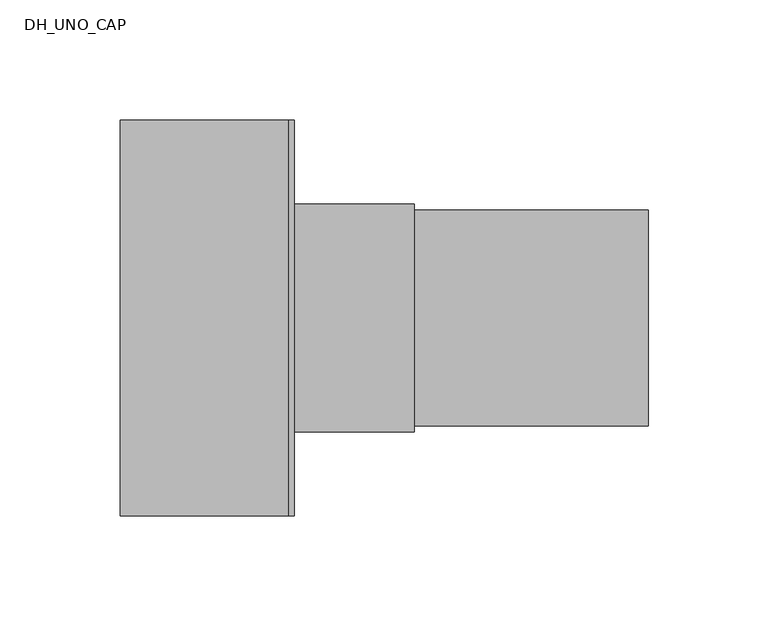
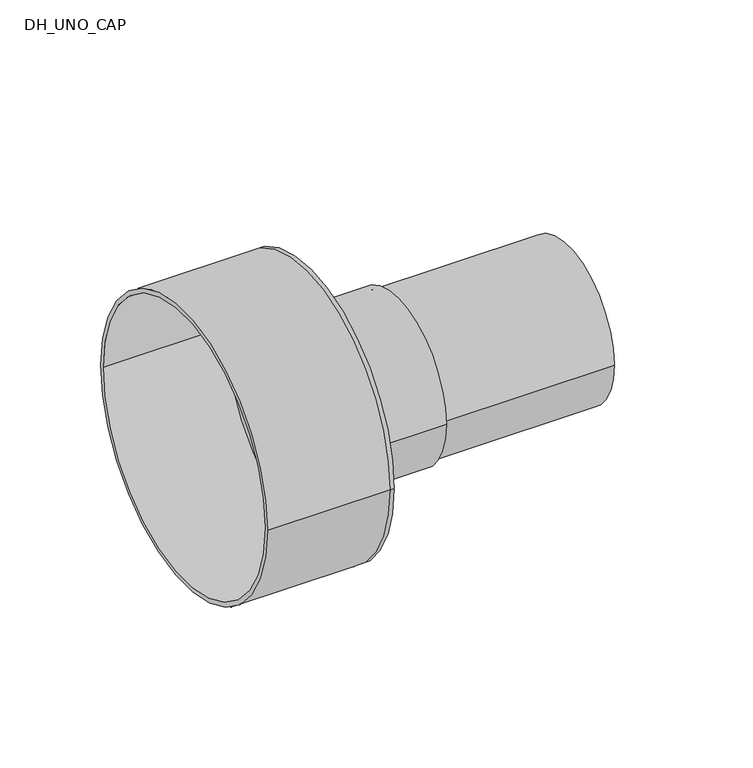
"""IFC4 building model written with IfcOpenShell, lengths in millimetres: pipe fitting geometry, DH_UNO_CAP : INSULPEX UNO 11 COOL - Rubber Cap."""

from ifc_helpers import new_model, si_unit, point, frame, origin, origin_2d, place, context, project, spatial, polyline, circle_curve, trimmed, segment, composite_curve, outline, extrude, source, transform, mapped, element, save
from ifc_brep_helpers import plane_surface, cylinder_surface, revolved_surface, advanced_brep


def dh_uno_cap_9719752f(model_context):
    return source(origin(), model_context, "Body", "SolidModel", [
        extrude(outline(composite_curve([segment(trimmed(circle_curve(origin_2d(), 45.0), [point((-45.0, 0.0))], [point((45.0, 0.0))], False, "CARTESIAN"), True, "CONTINUOUS"), segment(trimmed(circle_curve(origin_2d(), 45.0), [point((45.0, 0.0))], [point((-45.0, 0.0))], False, "CARTESIAN"), True, "CONTINUOUS")], self_intersect=False), holes=[composite_curve([segment(trimmed(circle_curve(origin_2d(), 36.8), [point((-36.8, 0.0))], [point((36.8, 0.0))], True, "CARTESIAN"), True, "CONTINUOUS"), segment(trimmed(circle_curve(origin_2d(), 36.8), [point((36.8, 0.0))], [point((-36.8, 0.0))], True, "CARTESIAN"), True, "CONTINUOUS")], self_intersect=False)]), frame((0.0, 0.0, 0.0), z_axis=(1.0, 0.0, 0.0), x_axis=(0.0, 1.0, 0.0)), (0.0, 0.0, 1.0), 150.0),
        advanced_brep(
        [(-70.0, -82.5, 0.0), (-70.0, 82.5, 0.0), (-70.0, -80.0, 0.0), (-70.0, 80.0, 0.0), (0.0, -80.0, 0.0), (0.0, 80.0, 0.0), (0.0, -82.5, 0.0), (0.0, 82.5, 0.0), (0.0, 45.0, 0.0), (0.0, -45.0, 0.0), (2.5, -82.5, 0.0), (2.5, 82.5, 0.0), (2.5, -45.0, 0.0), (2.5, 45.0, 0.0)],
        [
            (0, 1, circle_curve(frame((-70.0, 0.0, 0.0), z_axis=(-1.0, 0.0, 0.0), x_axis=(0.0, 1.0, 0.0)), 82.5)),
            (1, 0, circle_curve(frame((-70.0, 0.0, 0.0), z_axis=(-1.0, 0.0, 0.0), x_axis=(0.0, 1.0, 0.0)), 82.5)),
            (2, 3, circle_curve(frame((-70.0, 0.0, 0.0), z_axis=(1.0, 0.0, 0.0), x_axis=(0.0, 1.0, 0.0)), 80.0)),
            (3, 2, circle_curve(frame((-70.0, 0.0, 0.0), z_axis=(1.0, 0.0, 0.0), x_axis=(0.0, 1.0, 0.0)), 80.0)),
            (2, 4),
            (4, 5, circle_curve(frame((0.0, 0.0, 0.0), z_axis=(1.0, 0.0, 0.0), x_axis=(0.0, 1.0, 0.0)), 80.0)),
            (5, 3),
            (5, 4, circle_curve(frame((0.0, 0.0, 0.0), z_axis=(1.0, 0.0, 0.0), x_axis=(0.0, 1.0, 0.0)), 80.0)),
            (0, 6),
            (6, 7, circle_curve(frame((0.0, 0.0, 0.0), z_axis=(-1.0, 0.0, 0.0), x_axis=(0.0, 1.0, 0.0)), 82.5)),
            (7, 1),
            (7, 6, circle_curve(frame((0.0, 0.0, 0.0), z_axis=(-1.0, 0.0, 0.0), x_axis=(0.0, 1.0, 0.0)), 82.5)),
            (8, 9, circle_curve(frame((0.0, 0.0, 0.0), z_axis=(1.0, 0.0, 0.0), x_axis=(0.0, 1.0, 0.0)), 45.0)),
            (9, 8, circle_curve(frame((0.0, 0.0, 0.0), z_axis=(1.0, 0.0, 0.0), x_axis=(0.0, 1.0, 0.0)), 45.0)),
            (10, 11, circle_curve(frame((2.5, 0.0, 0.0), z_axis=(1.0, 0.0, 0.0), x_axis=(0.0, 1.0, 0.0)), 82.5)),
            (11, 10, circle_curve(frame((2.5, 0.0, 0.0), z_axis=(1.0, 0.0, 0.0), x_axis=(0.0, 1.0, 0.0)), 82.5)),
            (12, 13, circle_curve(frame((2.5, 0.0, 0.0), z_axis=(-1.0, 0.0, 0.0), x_axis=(0.0, 1.0, 0.0)), 45.0)),
            (13, 12, circle_curve(frame((2.5, 0.0, 0.0), z_axis=(-1.0, 0.0, 0.0), x_axis=(0.0, 1.0, 0.0)), 45.0)),
            (11, 7),
            (6, 10),
            (8, 13),
            (12, 9),
        ],
        [
            plane_surface(frame((-70.0, 0.0, 0.0), z_axis=(-1.0, 0.0, 0.0), x_axis=(0.0, 0.0, 1.0))),
            revolved_surface(polyline([(0.0, 80.0, 0.0), (-70.0, 80.0, 0.0)]), (-70.0, 0.0, 0.0), (1.0, 0.0, 0.0)),
            cylinder_surface(frame((-70.0, 0.0, 0.0), z_axis=(-1.0, 0.0, 0.0), x_axis=(0.0, 1.0, 0.0)), 82.5),
            plane_surface(frame((0.0, 0.0, 0.0), z_axis=(-1.0, 0.0, 0.0), x_axis=(0.0, 0.0, 1.0))),
            plane_surface(frame((2.5, 0.0, 0.0), z_axis=(1.0, 0.0, 0.0), x_axis=(0.0, 0.0, 1.0))),
            cylinder_surface(frame((0.0, 0.0, 0.0), z_axis=(-1.0, 0.0, 0.0), x_axis=(0.0, 1.0, 0.0)), 82.5),
            revolved_surface(polyline([(0.0, 45.0, 0.0), (2.5, 45.0, 0.0)]), (0.0, 0.0, 0.0), (-1.0, 0.0, 0.0)),
        ],
        [
            (0, [[1, 2], [3, 4]]),
            (1, [[-3, 5, 6, 7]]),
            (1, [[-4, -7, 8, -5]]),
            (2, [[-1, 9, 10, 11]]),
            (2, [[-2, -11, 12, -9]]),
            (3, [[-6, -8], [13, 14]]),
            (4, [[15, 16], [17, 18]]),
            (5, [[-16, 19, -10, 20]]),
            (5, [[-15, -20, -12, -19]]),
            (6, [[21, -17, 22, -13]]),
            (6, [[-21, -14, -22, -18]]),
        ],
    ),
        extrude(outline(composite_curve([segment(trimmed(circle_curve(origin_2d(), 47.5), [point((-47.5, 0.0))], [point((47.5, 0.0))], False, "CARTESIAN"), True, "CONTINUOUS"), segment(trimmed(circle_curve(origin_2d(), 47.5), [point((47.5, 0.0))], [point((-47.5, 0.0))], False, "CARTESIAN"), True, "CONTINUOUS")], self_intersect=False), holes=[composite_curve([segment(trimmed(circle_curve(origin_2d(), 45.0), [point((-45.0, 0.0))], [point((45.0, 0.0))], True, "CARTESIAN"), True, "CONTINUOUS"), segment(trimmed(circle_curve(origin_2d(), 45.0), [point((45.0, 0.0))], [point((-45.0, 0.0))], True, "CARTESIAN"), True, "CONTINUOUS")], self_intersect=False)]), frame((2.5, 0.0, 0.0), z_axis=(1.0, 0.0, 0.0), x_axis=(0.0, 1.0, 0.0)), (0.0, 0.0, 1.0), 50.0),
    ])


if __name__ == "__main__":
    model = new_model("IFC4")
    model_context = context("Model", 3, world=origin())
    ifc_project = project(units=[si_unit("LENGTHUNIT", "METRE", prefix="MILLI")], contexts=[model_context])
    site = spatial("IfcSite", under=ifc_project)
    building = spatial("IfcBuilding", under=site)
    placement = place(None, origin())
    dh_uno_cap_shape = dh_uno_cap_9719752f(model_context)
    element("IfcPipeFitting", 1, ObjectType="DH_UNO_CAP : INSULPEX UNO 11 COOL - Rubber Cap", at=placement, inside=building, context=model_context, shape_type="MappedRepresentation", body=[
        mapped(dh_uno_cap_shape, transform((0.0, 0.0, 0.0), x_axis=(1.0, 0.0, 0.0), y_axis=(0.0, 1.0, 0.0), z_axis=(0.0, 0.0, 1.0))),
    ])
    save(model, "model.ifc")
